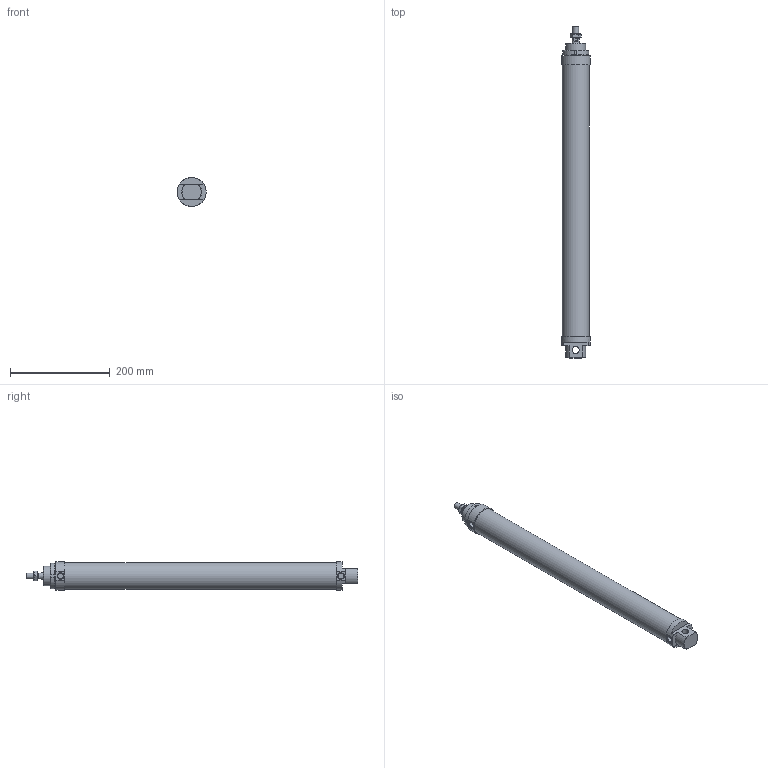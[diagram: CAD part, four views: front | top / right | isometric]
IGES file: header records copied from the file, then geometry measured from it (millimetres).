
Global section: file name: No Iges File Name specified; native system: AutoDesk Inventor R6.0; preprocessor: AutoDesk Inventor Iges Exporter R6.0; author: No Author specified; organization: No Organization specified; date: 20030402.145125; units: millimetre
Bounding box: 56.51 x 667 x 58 mm (x, y, z)
Surface area: 167810.4 mm2 (no closed solid volume)
Topology: 0 solids, 0 shells, 94 faces, 413 edges, 395 vertices
Faces by surface type: plane 44, revolution 39, bspline 11
